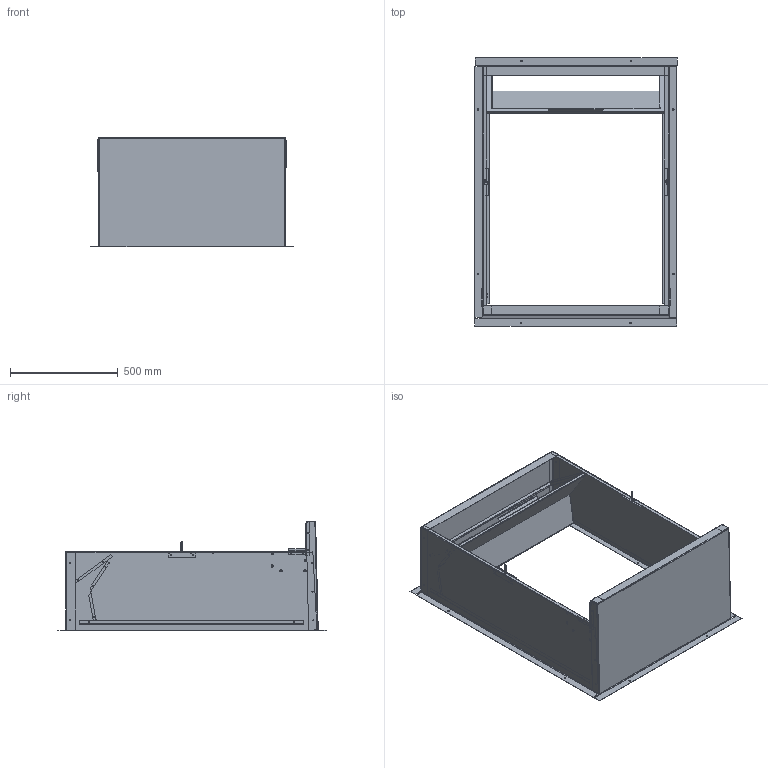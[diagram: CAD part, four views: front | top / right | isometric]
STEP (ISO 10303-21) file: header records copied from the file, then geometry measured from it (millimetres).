
FILE_DESCRIPTION (( 'STEP AP203' ), '1' );
FILE_NAME ('QWS42A.STEP', '2014-03-17T12:16:18', ( 'generic' ), ( 'Hewlett-Packard Company' ), 'SwSTEP 2.0', 'SolidWorks 2014', '' );
FILE_SCHEMA (( 'CONFIG_CONTROL_DESIGN' ));
Length unit declared in the file: inch
Products named in the file (12): 104-1060; 110-047; 1012-036; 110-080; QWS42A; 110-081; 136-449; 136-450; 120-305; 130-120; 104-988; 110-046
Assembly tree (14 placements, depth 2):
  QWS42A
    110-046
    110-047
    110-080
    110-081
    136-449
    136-450
    120-305
    130-120
    104-988  x2
    104-1060  x2
    1012-036  x2
Bounding box: 939.4 x 1245.4 x 510.61 mm (x, y, z)
Volume: 3516098.3 mm3; surface area: 5031904.4 mm2
Topology: 14 solids, 14 shells, 1115 faces, 2621 edges, 1536 vertices
Faces by surface type: plane 418, cylinder 347, cone 236, sphere 40, torus 40, bspline 34
Entity records: 29993 total; most frequent: CARTESIAN_POINT 6333, DIRECTION 4843, ORIENTED_EDGE 4476, EDGE_CURVE 2238, AXIS2_PLACEMENT_3D 1827, VERTEX_POINT 1327, VECTOR 1189, LINE 1189
